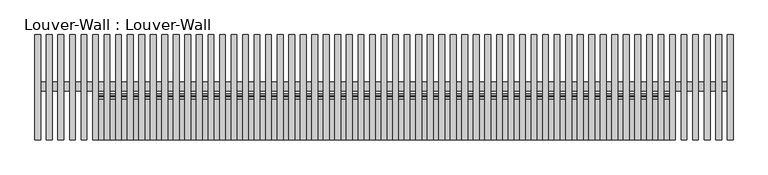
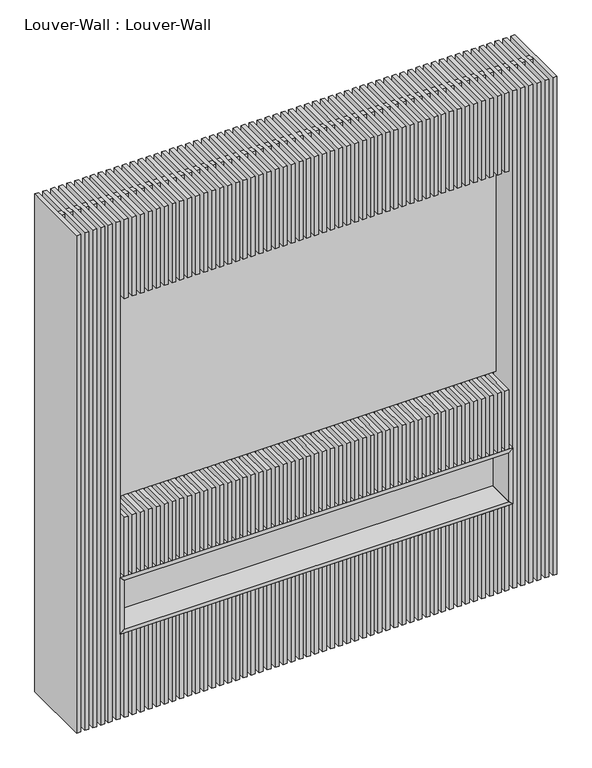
"""IFC4 building model written with IfcOpenShell, lengths in millimetres: furniture geometry, Louver-Wall : Louver-Wall."""

import ifcopenshell
import ifcopenshell.guid

model = None  # the IFC model being written
_history = None  # IfcOwnerHistory: only IFC2X3 demands one
_inside = {}  # id of a spatial element -> (the spatial element, [elements in it])
_under = {}  # id of a project, library or spatial element -> (it, [spatial elements below it])
_declared = {}  # id of a project -> (the project, [libraries it declares])
_typed = {}  # id of a type object -> (the type object, [elements of that type])
_made_of = {}  # id of a material, layer set ... -> (it, [elements and type objects made of it])


def new_model(schema):
    """Start an empty IFC model of exactly this schema.

    Asked for "IFC4X3", IfcOpenShell would pick the latest addendum, in which some entities
    have other attributes; the version numbers below select the first issue.
    IFC2X3 requires an IfcOwnerHistory on every rooted entity: one is made here for all.
    """
    global model, _history
    if schema == "IFC4X3":
        model = ifcopenshell.file(schema_version=(4, 3, 0, 0))
    else:
        model = ifcopenshell.file(schema=schema)
    _inside.clear()
    _under.clear()
    _declared.clear()
    _typed.clear()
    _made_of.clear()
    _history = None
    if model.schema == "IFC2X3":
        org = make("IfcOrganization", Name="unknown")
        user = make(
            "IfcPersonAndOrganization",
            ThePerson=make("IfcPerson", FamilyName="unknown"),
            TheOrganization=org,
        )
        app = make(
            "IfcApplication",
            ApplicationDeveloper=org,
            Version="unknown",
            ApplicationFullName="unknown",
            ApplicationIdentifier="unknown",
        )
        _history = make(
            "IfcOwnerHistory",
            OwningUser=user,
            OwningApplication=app,
            ChangeAction="ADDED",
            CreationDate=0,
        )
    return model


def make(cls, **values):
    """One entity of the class cls with the attributes given. An attribute that is None is left unset."""
    return model.create_entity(
        cls, **{name: value for name, value in values.items() if value is not None}
    )


def rooted(cls, **values):
    """An entity with a GlobalId (a new one), such as an element, a storey or a relation."""
    return make(cls, GlobalId=ifcopenshell.guid.new(), OwnerHistory=_history, **values)


def si_unit(unit_type, name, prefix=None):
    """IfcSIUnit, for example si_unit("LENGTHUNIT", "METRE", prefix="MILLI")."""
    return make("IfcSIUnit", UnitType=unit_type, Prefix=prefix, Name=name)


def assignment(units):
    """IfcUnitAssignment: the units of a project."""
    return None if units is None else make("IfcUnitAssignment", Units=units)


def point(xyz):
    """IfcCartesianPoint."""
    return None if xyz is None else make("IfcCartesianPoint", Coordinates=xyz)


def direction(xyz):
    """IfcDirection."""
    return None if xyz is None else make("IfcDirection", DirectionRatios=xyz)


def frame(location, z_axis=None, x_axis=None):
    """IfcAxis2Placement3D, a coordinate frame: its origin and axes. An axis left out is left unset."""
    return make(
        "IfcAxis2Placement3D",
        Location=point(location),
        Axis=direction(z_axis),
        RefDirection=direction(x_axis),
    )


def origin():
    """The frame at (0, 0, 0) with its axes left unset."""
    return frame((0.0, 0.0, 0.0))


def origin_with_axes():
    """The frame at (0, 0, 0) with the z axis (0, 0, 1) and the x axis (1, 0, 0) written out."""
    return frame((0.0, 0.0, 0.0), z_axis=(0.0, 0.0, 1.0), x_axis=(1.0, 0.0, 0.0))


def place(relative_to, where):
    """IfcLocalPlacement: puts the frame where relative to a parent placement (None: the world)."""
    return make(
        "IfcLocalPlacement", PlacementRelTo=relative_to, RelativePlacement=where
    )


def context(
    kind, dimensions, precision=None, world=None, true_north=None, identifier=None
):
    """IfcGeometricRepresentationContext, for example the 3D "Model" context."""
    return make(
        "IfcGeometricRepresentationContext",
        ContextIdentifier=identifier,
        ContextType=kind,
        CoordinateSpaceDimension=dimensions,
        Precision=precision,
        WorldCoordinateSystem=world,
        TrueNorth=true_north,
    )


def project(units=None, contexts=None):
    """IfcProject with its units and contexts."""
    return rooted(
        "IfcProject",
        Name="project",
        RepresentationContexts=contexts,
        UnitsInContext=assignment(units),
    )


def spatial(cls, under=None, at=None, **own):
    """A site, building, storey or space (cls), placed at a placement, below another one or the project."""
    s = rooted(cls, ObjectPlacement=at, **own)
    if under is not None:
        _under.setdefault(under.id(), (under, []))[1].append(s)
    return s


def polyline(points):
    """IfcPolyline through the points."""
    return make("IfcPolyline", Points=[point(p) for p in points])


def outline(outer, holes=None, kind="AREA"):
    """IfcArbitraryClosedProfileDef: a profile drawn as a closed curve; with holes, ...WithVoids."""
    if holes is None:
        return make("IfcArbitraryClosedProfileDef", ProfileType=kind, OuterCurve=outer)
    return make(
        "IfcArbitraryProfileDefWithVoids",
        ProfileType=kind,
        OuterCurve=outer,
        InnerCurves=holes,
    )


def extrude(swept, where, along, depth):
    """IfcExtrudedAreaSolid: the profile swept, set in the frame where, extruded along a direction by depth."""
    return make(
        "IfcExtrudedAreaSolid",
        SweptArea=swept,
        Position=where,
        ExtrudedDirection=direction(along),
        Depth=depth,
    )


def shape(context_of_items, identifier, shape_type, items):
    """IfcShapeRepresentation: the items that make up one representation, for example the "Body"."""
    return make(
        "IfcShapeRepresentation",
        ContextOfItems=context_of_items,
        RepresentationIdentifier=identifier,
        RepresentationType=shape_type,
        Items=items,
    )


def source(mapping_origin, context_of_items, identifier, shape_type, items):
    """IfcRepresentationMap: a shape defined once, which mapped items show again and again."""
    return make(
        "IfcRepresentationMap",
        MappingOrigin=mapping_origin,
        MappedRepresentation=shape(context_of_items, identifier, shape_type, items),
    )


def transform(
    local_origin,
    x_axis=None,
    y_axis=None,
    z_axis=None,
    scale=None,
    scale2=None,
    scale3=None,
    uniform=True,
):
    """IfcCartesianTransformationOperator3D, or its non-uniform kind. x_axis, y_axis, z_axis: its Axis1, 2, 3."""
    if uniform:
        return make(
            "IfcCartesianTransformationOperator3D",
            Axis1=direction(x_axis),
            Axis2=direction(y_axis),
            LocalOrigin=point(local_origin),
            Scale=scale,
            Axis3=direction(z_axis),
        )
    return make(
        "IfcCartesianTransformationOperator3DnonUniform",
        Axis1=direction(x_axis),
        Axis2=direction(y_axis),
        LocalOrigin=point(local_origin),
        Scale=scale,
        Axis3=direction(z_axis),
        Scale2=scale2,
        Scale3=scale3,
    )


def mapped(mapping_source, mapping_target):
    """IfcMappedItem: shows the shape of a source again, moved by a transform."""
    return make(
        "IfcMappedItem", MappingSource=mapping_source, MappingTarget=mapping_target
    )


def made_of(thing, what):
    """Note that an element or type object is made of a material, layer set ...; save() writes the relation."""
    if what is not None:
        _made_of.setdefault(what.id(), (what, []))[1].append(thing)
    return thing


def element(
    cls,
    number,
    at=None,
    inside=None,
    cuts=None,
    type_object=None,
    material=None,
    context=None,
    identifier="Body",
    shape_type=None,
    held_by="IfcProductDefinitionShape",
    body=None,
    shapes=None,
    **own,
):
    """One element of the class cls, such as IfcWall. Its Tag is "e" and its number.

    at: its placement. inside: the storey or other place that contains it. cuts: it is an
    opening in that element (IfcRelVoidsElement). A single representation is given by context,
    identifier, shape_type and body (its items); several are given by shapes. held_by: the class
    of the entity that holds the representations. save() writes the other relations.
    """
    e = rooted(cls, Tag="e%d" % number, ObjectPlacement=at, **own)
    if body is not None:
        shapes = [shape(context, identifier, shape_type, body)]
    if shapes is not None:
        e.Representation = make(held_by, Representations=shapes)
    if inside is not None:
        _inside.setdefault(inside.id(), (inside, []))[1].append(e)
    if cuts is not None:
        rooted(
            "IfcRelVoidsElement", RelatingBuildingElement=cuts, RelatedOpeningElement=e
        )
    if type_object is not None:
        _typed.setdefault(type_object.id(), (type_object, []))[1].append(e)
    return made_of(e, material)


def aggregate(whole, parts):
    """IfcRelAggregates: a whole, such as a stair, and the parts it consists of."""
    return rooted("IfcRelAggregates", RelatingObject=whole, RelatedObjects=parts)


def save(model, path):
    """Write the relations noted so far, then the file.

    IfcRelAggregates (storeys below a building ...), IfcRelContainedInSpatialStructure (elements
    in a storey), IfcRelDefinesByType, IfcRelAssociatesMaterial and IfcRelDeclares: one each for
    every whole, place, type object, material and project.
    """
    for whole, parts in _under.values():
        aggregate(whole, parts)
    for where, things in _inside.values():
        rooted(
            "IfcRelContainedInSpatialStructure",
            RelatedElements=things,
            RelatingStructure=where,
        )
    for kind, things in _typed.values():
        rooted("IfcRelDefinesByType", RelatedObjects=things, RelatingType=kind)
    for what, things in _made_of.values():
        rooted("IfcRelAssociatesMaterial", RelatedObjects=things, RelatingMaterial=what)
    for by, libraries in _declared.values():
        rooted("IfcRelDeclares", RelatingContext=by, RelatedDefinitions=libraries)
    model.write(path)


def louver_wall_louver_wall_93ea62c7(model_context):
    return source(origin(), model_context, "Body", "SweptSolid", [
        extrude(outline(polyline([(450.0, -990.0), (450.0, 990.0), (470.0, 970.0), (470.0, -970.0), (450.0, -990.0)])), frame((0.0, 0.0, 0.0), z_axis=(0.0, 1.0, 0.0), x_axis=(0.0, 0.0, 1.0)), (0.0, 0.0, 1.0), 140.0),
        extrude(outline(polyline([(750.0, -990.0), (450.0, -990.0), (470.0, -970.0), (730.0, -970.0), (750.0, -990.0)])), frame((0.0, 0.0, 0.0), z_axis=(0.0, 1.0, 0.0), x_axis=(0.0, 0.0, 1.0)), (0.0, 0.0, 1.0), 140.0),
        extrude(outline(polyline([(750.0, 990.0), (750.0, -990.0), (730.0, -970.0), (730.0, 970.0), (750.0, 990.0)])), frame((0.0, 0.0, 0.0), z_axis=(0.0, 1.0, 0.0), x_axis=(0.0, 0.0, 1.0)), (0.0, 0.0, 1.0), 140.0),
        extrude(outline(polyline([(990.0, 140.0), (-990.0, 140.0), (-990.0, 160.0), (990.0, 160.0), (990.0, 140.0)])), frame((0.0, 0.0, 450.0), z_axis=(0.0, 0.0, 1.0), x_axis=(1.0, 0.0, 0.0)), (0.0, 0.0, 1.0), 300.0),
        extrude(outline(polyline([(450.0, 990.0), (750.0, 990.0), (730.0, 970.0), (470.0, 970.0), (450.0, 990.0)])), frame((0.0, 0.0, 0.0), z_axis=(0.0, 1.0, 0.0), x_axis=(0.0, 0.0, 1.0)), (0.0, 0.0, 1.0), 140.0),
        extrude(outline(polyline([(1190.0, 201.0639808), (1190.0, 170.2334839), (-1190.0, 170.2334839), (-1190.0, 201.0639808), (1190.0, 201.0639808)])), origin_with_axes(), (0.0, 0.0, 1.0), 2649.0),
        extrude(outline(polyline([(990.0, 152.0), (990.0, 150.0), (-990.0, 150.0), (-990.0, 152.0), (990.0, 152.0)])), frame((0.0, 0.0, 1065.0), z_axis=(0.0, 0.0, 1.0), x_axis=(1.0, 0.0, 0.0)), (0.0, 0.0, 1.0), 1165.0),
        extrude(outline(polyline([(1010.0, 365.0), (1010.0, 0.0), (990.0, 0.0), (990.0, 365.0), (1010.0, 365.0)])), origin_with_axes(), (0.0, 0.0, 1.0), 2650.0),
        extrude(outline(polyline([(-990.0, 365.0), (-990.0, 0.0), (-1010.0, 0.0), (-1010.0, 365.0), (-990.0, 365.0)])), origin_with_axes(), (0.0, 0.0, 1.0), 2650.0),
        extrude(outline(polyline([(0.0, 2650.0), (365.0, 2650.0), (365.0, 0.0), (0.0, 0.0), (0.0, 450.0), (185.0, 450.0), (185.0, 750.0), (0.0, 750.0), (0.0, 1065.0), (152.0, 1065.0), (152.0, 2230.0), (0.0, 2230.0), (0.0, 2650.0)])), frame((950.0, 0.0, 0.0), z_axis=(1.0, 0.0, 0.0), x_axis=(0.0, 1.0, 0.0)), (0.0, 0.0, 1.0), 20.0),
        extrude(outline(polyline([(0.0, 2650.0), (365.0, 2650.0), (365.0, 0.0), (0.0, 0.0), (0.0, 450.0), (185.0, 450.0), (185.0, 750.0), (0.0, 750.0), (0.0, 1065.0), (152.0, 1065.0), (152.0, 2230.0), (0.0, 2230.0), (0.0, 2650.0)])), frame((910.0, 0.0, 0.0), z_axis=(1.0, 0.0, 0.0), x_axis=(0.0, 1.0, 0.0)), (0.0, 0.0, 1.0), 20.0),
        extrude(outline(polyline([(0.0, 2650.0), (365.0, 2650.0), (365.0, 0.0), (0.0, 0.0), (0.0, 450.0), (185.0, 450.0), (185.0, 750.0), (0.0, 750.0), (0.0, 1065.0), (152.0, 1065.0), (152.0, 2230.0), (0.0, 2230.0), (0.0, 2650.0)])), frame((870.0, 0.0, 0.0), z_axis=(1.0, 0.0, 0.0), x_axis=(0.0, 1.0, 0.0)), (0.0, 0.0, 1.0), 20.0),
        extrude(outline(polyline([(0.0, 2650.0), (365.0, 2650.0), (365.0, 0.0), (0.0, 0.0), (0.0, 450.0), (185.0, 450.0), (185.0, 750.0), (0.0, 750.0), (0.0, 1065.0), (152.0, 1065.0), (152.0, 2230.0), (0.0, 2230.0), (0.0, 2650.0)])), frame((830.0, 0.0, 0.0), z_axis=(1.0, 0.0, 0.0), x_axis=(0.0, 1.0, 0.0)), (0.0, 0.0, 1.0), 20.0),
        extrude(outline(polyline([(0.0, 2650.0), (365.0, 2650.0), (365.0, 0.0), (0.0, 0.0), (0.0, 450.0), (185.0, 450.0), (185.0, 750.0), (0.0, 750.0), (0.0, 1065.0), (152.0, 1065.0), (152.0, 2230.0), (0.0, 2230.0), (0.0, 2650.0)])), frame((790.0, 0.0, 0.0), z_axis=(1.0, 0.0, 0.0), x_axis=(0.0, 1.0, 0.0)), (0.0, 0.0, 1.0), 20.0),
        extrude(outline(polyline([(0.0, 2650.0), (365.0, 2650.0), (365.0, 0.0), (0.0, 0.0), (0.0, 450.0), (185.0, 450.0), (185.0, 750.0), (0.0, 750.0), (0.0, 1065.0), (152.0, 1065.0), (152.0, 2230.0), (0.0, 2230.0), (0.0, 2650.0)])), frame((750.0, 0.0, 0.0), z_axis=(1.0, 0.0, 0.0), x_axis=(0.0, 1.0, 0.0)), (0.0, 0.0, 1.0), 20.0),
        extrude(outline(polyline([(0.0, 2650.0), (365.0, 2650.0), (365.0, 0.0), (0.0, 0.0), (0.0, 450.0), (185.0, 450.0), (185.0, 750.0), (0.0, 750.0), (0.0, 1065.0), (152.0, 1065.0), (152.0, 2230.0), (0.0, 2230.0), (0.0, 2650.0)])), frame((710.0, 0.0, 0.0), z_axis=(1.0, 0.0, 0.0), x_axis=(0.0, 1.0, 0.0)), (0.0, 0.0, 1.0), 20.0),
        extrude(outline(polyline([(0.0, 2650.0), (365.0, 2650.0), (365.0, 0.0), (0.0, 0.0), (0.0, 450.0), (185.0, 450.0), (185.0, 750.0), (0.0, 750.0), (0.0, 1065.0), (152.0, 1065.0), (152.0, 2230.0), (0.0, 2230.0), (0.0, 2650.0)])), frame((670.0, 0.0, 0.0), z_axis=(1.0, 0.0, 0.0), x_axis=(0.0, 1.0, 0.0)), (0.0, 0.0, 1.0), 20.0),
        extrude(outline(polyline([(0.0, 2650.0), (365.0, 2650.0), (365.0, 0.0), (0.0, 0.0), (0.0, 450.0), (185.0, 450.0), (185.0, 750.0), (0.0, 750.0), (0.0, 1065.0), (152.0, 1065.0), (152.0, 2230.0), (0.0, 2230.0), (0.0, 2650.0)])), frame((630.0, 0.0, 0.0), z_axis=(1.0, 0.0, 0.0), x_axis=(0.0, 1.0, 0.0)), (0.0, 0.0, 1.0), 20.0),
        extrude(outline(polyline([(0.0, 2650.0), (365.0, 2650.0), (365.0, 0.0), (0.0, 0.0), (0.0, 450.0), (185.0, 450.0), (185.0, 750.0), (0.0, 750.0), (0.0, 1065.0), (152.0, 1065.0), (152.0, 2230.0), (0.0, 2230.0), (0.0, 2650.0)])), frame((590.0, 0.0, 0.0), z_axis=(1.0, 0.0, 0.0), x_axis=(0.0, 1.0, 0.0)), (0.0, 0.0, 1.0), 20.0),
        extrude(outline(polyline([(0.0, 2650.0), (365.0, 2650.0), (365.0, 0.0), (0.0, 0.0), (0.0, 450.0), (185.0, 450.0), (185.0, 750.0), (0.0, 750.0), (0.0, 1065.0), (152.0, 1065.0), (152.0, 2230.0), (0.0, 2230.0), (0.0, 2650.0)])), frame((550.0, 0.0, 0.0), z_axis=(1.0, 0.0, 0.0), x_axis=(0.0, 1.0, 0.0)), (0.0, 0.0, 1.0), 20.0),
        extrude(outline(polyline([(0.0, 2650.0), (365.0, 2650.0), (365.0, 0.0), (0.0, 0.0), (0.0, 450.0), (185.0, 450.0), (185.0, 750.0), (0.0, 750.0), (0.0, 1065.0), (152.0, 1065.0), (152.0, 2230.0), (0.0, 2230.0), (0.0, 2650.0)])), frame((510.0, 0.0, 0.0), z_axis=(1.0, 0.0, 0.0), x_axis=(0.0, 1.0, 0.0)), (0.0, 0.0, 1.0), 20.0),
        extrude(outline(polyline([(0.0, 2650.0), (365.0, 2650.0), (365.0, 0.0), (0.0, 0.0), (0.0, 450.0), (185.0, 450.0), (185.0, 750.0), (0.0, 750.0), (0.0, 1065.0), (152.0, 1065.0), (152.0, 2230.0), (0.0, 2230.0), (0.0, 2650.0)])), frame((470.0, 0.0, 0.0), z_axis=(1.0, 0.0, 0.0), x_axis=(0.0, 1.0, 0.0)), (0.0, 0.0, 1.0), 20.0),
        extrude(outline(polyline([(0.0, 2650.0), (365.0, 2650.0), (365.0, 0.0), (0.0, 0.0), (0.0, 450.0), (185.0, 450.0), (185.0, 750.0), (0.0, 750.0), (0.0, 1065.0), (152.0, 1065.0), (152.0, 2230.0), (0.0, 2230.0), (0.0, 2650.0)])), frame((430.0, 0.0, 0.0), z_axis=(1.0, 0.0, 0.0), x_axis=(0.0, 1.0, 0.0)), (0.0, 0.0, 1.0), 20.0),
        extrude(outline(polyline([(0.0, 2650.0), (365.0, 2650.0), (365.0, 0.0), (0.0, 0.0), (0.0, 450.0), (185.0, 450.0), (185.0, 750.0), (0.0, 750.0), (0.0, 1065.0), (152.0, 1065.0), (152.0, 2230.0), (0.0, 2230.0), (0.0, 2650.0)])), frame((390.0, 0.0, 0.0), z_axis=(1.0, 0.0, 0.0), x_axis=(0.0, 1.0, 0.0)), (0.0, 0.0, 1.0), 20.0),
        extrude(outline(polyline([(0.0, 2650.0), (365.0, 2650.0), (365.0, 0.0), (0.0, 0.0), (0.0, 450.0), (185.0, 450.0), (185.0, 750.0), (0.0, 750.0), (0.0, 1065.0), (152.0, 1065.0), (152.0, 2230.0), (0.0, 2230.0), (0.0, 2650.0)])), frame((350.0, 0.0, 0.0), z_axis=(1.0, 0.0, 0.0), x_axis=(0.0, 1.0, 0.0)), (0.0, 0.0, 1.0), 20.0),
        extrude(outline(polyline([(0.0, 2650.0), (365.0, 2650.0), (365.0, 0.0), (0.0, 0.0), (0.0, 450.0), (185.0, 450.0), (185.0, 750.0), (0.0, 750.0), (0.0, 1065.0), (152.0, 1065.0), (152.0, 2230.0), (0.0, 2230.0), (0.0, 2650.0)])), frame((310.0, 0.0, 0.0), z_axis=(1.0, 0.0, 0.0), x_axis=(0.0, 1.0, 0.0)), (0.0, 0.0, 1.0), 20.0),
        extrude(outline(polyline([(0.0, 2650.0), (365.0, 2650.0), (365.0, 0.0), (0.0, 0.0), (0.0, 450.0), (185.0, 450.0), (185.0, 750.0), (0.0, 750.0), (0.0, 1065.0), (152.0, 1065.0), (152.0, 2230.0), (0.0, 2230.0), (0.0, 2650.0)])), frame((270.0, 0.0, 0.0), z_axis=(1.0, 0.0, 0.0), x_axis=(0.0, 1.0, 0.0)), (0.0, 0.0, 1.0), 20.0),
        extrude(outline(polyline([(0.0, 2650.0), (365.0, 2650.0), (365.0, 0.0), (0.0, 0.0), (0.0, 450.0), (185.0, 450.0), (185.0, 750.0), (0.0, 750.0), (0.0, 1065.0), (152.0, 1065.0), (152.0, 2230.0), (0.0, 2230.0), (0.0, 2650.0)])), frame((230.0, 0.0, 0.0), z_axis=(1.0, 0.0, 0.0), x_axis=(0.0, 1.0, 0.0)), (0.0, 0.0, 1.0), 20.0),
        extrude(outline(polyline([(0.0, 2650.0), (365.0, 2650.0), (365.0, 0.0), (0.0, 0.0), (0.0, 450.0), (185.0, 450.0), (185.0, 750.0), (0.0, 750.0), (0.0, 1065.0), (152.0, 1065.0), (152.0, 2230.0), (0.0, 2230.0), (0.0, 2650.0)])), frame((190.0, 0.0, 0.0), z_axis=(1.0, 0.0, 0.0), x_axis=(0.0, 1.0, 0.0)), (0.0, 0.0, 1.0), 20.0),
        extrude(outline(polyline([(0.0, 2650.0), (365.0, 2650.0), (365.0, 0.0), (0.0, 0.0), (0.0, 450.0), (185.0, 450.0), (185.0, 750.0), (0.0, 750.0), (0.0, 1065.0), (152.0, 1065.0), (152.0, 2230.0), (0.0, 2230.0), (0.0, 2650.0)])), frame((150.0, 0.0, 0.0), z_axis=(1.0, 0.0, 0.0), x_axis=(0.0, 1.0, 0.0)), (0.0, 0.0, 1.0), 20.0),
        extrude(outline(polyline([(0.0, 2650.0), (365.0, 2650.0), (365.0, 0.0), (0.0, 0.0), (0.0, 450.0), (185.0, 450.0), (185.0, 750.0), (0.0, 750.0), (0.0, 1065.0), (152.0, 1065.0), (152.0, 2230.0), (0.0, 2230.0), (0.0, 2650.0)])), frame((110.0, 0.0, 0.0), z_axis=(1.0, 0.0, 0.0), x_axis=(0.0, 1.0, 0.0)), (0.0, 0.0, 1.0), 20.0),
        extrude(outline(polyline([(0.0, 2650.0), (365.0, 2650.0), (365.0, 0.0), (0.0, 0.0), (0.0, 450.0), (185.0, 450.0), (185.0, 750.0), (0.0, 750.0), (0.0, 1065.0), (152.0, 1065.0), (152.0, 2230.0), (0.0, 2230.0), (0.0, 2650.0)])), frame((70.0, 0.0, 0.0), z_axis=(1.0, 0.0, 0.0), x_axis=(0.0, 1.0, 0.0)), (0.0, 0.0, 1.0), 20.0),
        extrude(outline(polyline([(0.0, 2650.0), (365.0, 2650.0), (365.0, 0.0), (0.0, 0.0), (0.0, 450.0), (185.0, 450.0), (185.0, 750.0), (0.0, 750.0), (0.0, 1065.0), (152.0, 1065.0), (152.0, 2230.0), (0.0, 2230.0), (0.0, 2650.0)])), frame((30.0, 0.0, 0.0), z_axis=(1.0, 0.0, 0.0), x_axis=(0.0, 1.0, 0.0)), (0.0, 0.0, 1.0), 20.0),
        extrude(outline(polyline([(0.0, 2650.0), (365.0, 2650.0), (365.0, 0.0), (0.0, 0.0), (0.0, 450.0), (185.0, 450.0), (185.0, 750.0), (0.0, 750.0), (0.0, 1065.0), (152.0, 1065.0), (152.0, 2230.0), (0.0, 2230.0), (0.0, 2650.0)])), frame((-10.0, 0.0, 0.0), z_axis=(1.0, 0.0, 0.0), x_axis=(0.0, 1.0, 0.0)), (0.0, 0.0, 1.0), 20.0),
        extrude(outline(polyline([(0.0, 2650.0), (365.0, 2650.0), (365.0, 0.0), (0.0, 0.0), (0.0, 450.0), (185.0, 450.0), (185.0, 750.0), (0.0, 750.0), (0.0, 1065.0), (152.0, 1065.0), (152.0, 2230.0), (0.0, 2230.0), (0.0, 2650.0)])), frame((-50.0, 0.0, 0.0), z_axis=(1.0, 0.0, 0.0), x_axis=(0.0, 1.0, 0.0)), (0.0, 0.0, 1.0), 20.0),
        extrude(outline(polyline([(0.0, 2650.0), (365.0, 2650.0), (365.0, 0.0), (0.0, 0.0), (0.0, 450.0), (185.0, 450.0), (185.0, 750.0), (0.0, 750.0), (0.0, 1065.0), (152.0, 1065.0), (152.0, 2230.0), (0.0, 2230.0), (0.0, 2650.0)])), frame((-90.0, 0.0, 0.0), z_axis=(1.0, 0.0, 0.0), x_axis=(0.0, 1.0, 0.0)), (0.0, 0.0, 1.0), 20.0),
        extrude(outline(polyline([(0.0, 2650.0), (365.0, 2650.0), (365.0, 0.0), (0.0, 0.0), (0.0, 450.0), (185.0, 450.0), (185.0, 750.0), (0.0, 750.0), (0.0, 1065.0), (152.0, 1065.0), (152.0, 2230.0), (0.0, 2230.0), (0.0, 2650.0)])), frame((-130.0, 0.0, 0.0), z_axis=(1.0, 0.0, 0.0), x_axis=(0.0, 1.0, 0.0)), (0.0, 0.0, 1.0), 20.0),
        extrude(outline(polyline([(0.0, 2650.0), (365.0, 2650.0), (365.0, 0.0), (0.0, 0.0), (0.0, 450.0), (185.0, 450.0), (185.0, 750.0), (0.0, 750.0), (0.0, 1065.0), (152.0, 1065.0), (152.0, 2230.0), (0.0, 2230.0), (0.0, 2650.0)])), frame((-170.0, 0.0, 0.0), z_axis=(1.0, 0.0, 0.0), x_axis=(0.0, 1.0, 0.0)), (0.0, 0.0, 1.0), 20.0),
        extrude(outline(polyline([(0.0, 2650.0), (365.0, 2650.0), (365.0, 0.0), (0.0, 0.0), (0.0, 450.0), (185.0, 450.0), (185.0, 750.0), (0.0, 750.0), (0.0, 1065.0), (152.0, 1065.0), (152.0, 2230.0), (0.0, 2230.0), (0.0, 2650.0)])), frame((-210.0, 0.0, 0.0), z_axis=(1.0, 0.0, 0.0), x_axis=(0.0, 1.0, 0.0)), (0.0, 0.0, 1.0), 20.0),
        extrude(outline(polyline([(0.0, 2650.0), (365.0, 2650.0), (365.0, 0.0), (0.0, 0.0), (0.0, 450.0), (185.0, 450.0), (185.0, 750.0), (0.0, 750.0), (0.0, 1065.0), (152.0, 1065.0), (152.0, 2230.0), (0.0, 2230.0), (0.0, 2650.0)])), frame((-250.0, 0.0, 0.0), z_axis=(1.0, 0.0, 0.0), x_axis=(0.0, 1.0, 0.0)), (0.0, 0.0, 1.0), 20.0),
        extrude(outline(polyline([(0.0, 2650.0), (365.0, 2650.0), (365.0, 0.0), (0.0, 0.0), (0.0, 450.0), (185.0, 450.0), (185.0, 750.0), (0.0, 750.0), (0.0, 1065.0), (152.0, 1065.0), (152.0, 2230.0), (0.0, 2230.0), (0.0, 2650.0)])), frame((-290.0, 0.0, 0.0), z_axis=(1.0, 0.0, 0.0), x_axis=(0.0, 1.0, 0.0)), (0.0, 0.0, 1.0), 20.0),
        extrude(outline(polyline([(0.0, 2650.0), (365.0, 2650.0), (365.0, 0.0), (0.0, 0.0), (0.0, 450.0), (185.0, 450.0), (185.0, 750.0), (0.0, 750.0), (0.0, 1065.0), (152.0, 1065.0), (152.0, 2230.0), (0.0, 2230.0), (0.0, 2650.0)])), frame((-330.0, 0.0, 0.0), z_axis=(1.0, 0.0, 0.0), x_axis=(0.0, 1.0, 0.0)), (0.0, 0.0, 1.0), 20.0),
        extrude(outline(polyline([(0.0, 2650.0), (365.0, 2650.0), (365.0, 0.0), (0.0, 0.0), (0.0, 450.0), (185.0, 450.0), (185.0, 750.0), (0.0, 750.0), (0.0, 1065.0), (152.0, 1065.0), (152.0, 2230.0), (0.0, 2230.0), (0.0, 2650.0)])), frame((-370.0, 0.0, 0.0), z_axis=(1.0, 0.0, 0.0), x_axis=(0.0, 1.0, 0.0)), (0.0, 0.0, 1.0), 20.0),
        extrude(outline(polyline([(0.0, 2650.0), (365.0, 2650.0), (365.0, 0.0), (0.0, 0.0), (0.0, 450.0), (185.0, 450.0), (185.0, 750.0), (0.0, 750.0), (0.0, 1065.0), (152.0, 1065.0), (152.0, 2230.0), (0.0, 2230.0), (0.0, 2650.0)])), frame((-410.0, 0.0, 0.0), z_axis=(1.0, 0.0, 0.0), x_axis=(0.0, 1.0, 0.0)), (0.0, 0.0, 1.0), 20.0),
        extrude(outline(polyline([(0.0, 2650.0), (365.0, 2650.0), (365.0, 0.0), (0.0, 0.0), (0.0, 450.0), (185.0, 450.0), (185.0, 750.0), (0.0, 750.0), (0.0, 1065.0), (152.0, 1065.0), (152.0, 2230.0), (0.0, 2230.0), (0.0, 2650.0)])), frame((-450.0, 0.0, 0.0), z_axis=(1.0, 0.0, 0.0), x_axis=(0.0, 1.0, 0.0)), (0.0, 0.0, 1.0), 20.0),
        extrude(outline(polyline([(0.0, 2650.0), (365.0, 2650.0), (365.0, 0.0), (0.0, 0.0), (0.0, 450.0), (185.0, 450.0), (185.0, 750.0), (0.0, 750.0), (0.0, 1065.0), (152.0, 1065.0), (152.0, 2230.0), (0.0, 2230.0), (0.0, 2650.0)])), frame((-490.0, 0.0, 0.0), z_axis=(1.0, 0.0, 0.0), x_axis=(0.0, 1.0, 0.0)), (0.0, 0.0, 1.0), 20.0),
        extrude(outline(polyline([(0.0, 2650.0), (365.0, 2650.0), (365.0, 0.0), (0.0, 0.0), (0.0, 450.0), (185.0, 450.0), (185.0, 750.0), (0.0, 750.0), (0.0, 1065.0), (152.0, 1065.0), (152.0, 2230.0), (0.0, 2230.0), (0.0, 2650.0)])), frame((-530.0, 0.0, 0.0), z_axis=(1.0, 0.0, 0.0), x_axis=(0.0, 1.0, 0.0)), (0.0, 0.0, 1.0), 20.0),
        extrude(outline(polyline([(0.0, 2650.0), (365.0, 2650.0), (365.0, 0.0), (0.0, 0.0), (0.0, 450.0), (185.0, 450.0), (185.0, 750.0), (0.0, 750.0), (0.0, 1065.0), (152.0, 1065.0), (152.0, 2230.0), (0.0, 2230.0), (0.0, 2650.0)])), frame((-570.0, 0.0, 0.0), z_axis=(1.0, 0.0, 0.0), x_axis=(0.0, 1.0, 0.0)), (0.0, 0.0, 1.0), 20.0),
        extrude(outline(polyline([(0.0, 2650.0), (365.0, 2650.0), (365.0, 0.0), (0.0, 0.0), (0.0, 450.0), (185.0, 450.0), (185.0, 750.0), (0.0, 750.0), (0.0, 1065.0), (152.0, 1065.0), (152.0, 2230.0), (0.0, 2230.0), (0.0, 2650.0)])), frame((-610.0, 0.0, 0.0), z_axis=(1.0, 0.0, 0.0), x_axis=(0.0, 1.0, 0.0)), (0.0, 0.0, 1.0), 20.0),
        extrude(outline(polyline([(0.0, 2650.0), (365.0, 2650.0), (365.0, 0.0), (0.0, 0.0), (0.0, 450.0), (185.0, 450.0), (185.0, 750.0), (0.0, 750.0), (0.0, 1065.0), (152.0, 1065.0), (152.0, 2230.0), (0.0, 2230.0), (0.0, 2650.0)])), frame((-650.0, 0.0, 0.0), z_axis=(1.0, 0.0, 0.0), x_axis=(0.0, 1.0, 0.0)), (0.0, 0.0, 1.0), 20.0),
        extrude(outline(polyline([(0.0, 2650.0), (365.0, 2650.0), (365.0, 0.0), (0.0, 0.0), (0.0, 450.0), (185.0, 450.0), (185.0, 750.0), (0.0, 750.0), (0.0, 1065.0), (152.0, 1065.0), (152.0, 2230.0), (0.0, 2230.0), (0.0, 2650.0)])), frame((-690.0, 0.0, 0.0), z_axis=(1.0, 0.0, 0.0), x_axis=(0.0, 1.0, 0.0)), (0.0, 0.0, 1.0), 20.0),
        extrude(outline(polyline([(0.0, 2650.0), (365.0, 2650.0), (365.0, 0.0), (0.0, 0.0), (0.0, 450.0), (185.0, 450.0), (185.0, 750.0), (0.0, 750.0), (0.0, 1065.0), (152.0, 1065.0), (152.0, 2230.0), (0.0, 2230.0), (0.0, 2650.0)])), frame((-730.0, 0.0, 0.0), z_axis=(1.0, 0.0, 0.0), x_axis=(0.0, 1.0, 0.0)), (0.0, 0.0, 1.0), 20.0),
        extrude(outline(polyline([(0.0, 2650.0), (365.0, 2650.0), (365.0, 0.0), (0.0, 0.0), (0.0, 450.0), (185.0, 450.0), (185.0, 750.0), (0.0, 750.0), (0.0, 1065.0), (152.0, 1065.0), (152.0, 2230.0), (0.0, 2230.0), (0.0, 2650.0)])), frame((-770.0, 0.0, 0.0), z_axis=(1.0, 0.0, 0.0), x_axis=(0.0, 1.0, 0.0)), (0.0, 0.0, 1.0), 20.0),
        extrude(outline(polyline([(0.0, 2650.0), (365.0, 2650.0), (365.0, 0.0), (0.0, 0.0), (0.0, 450.0), (185.0, 450.0), (185.0, 750.0), (0.0, 750.0), (0.0, 1065.0), (152.0, 1065.0), (152.0, 2230.0), (0.0, 2230.0), (0.0, 2650.0)])), frame((-810.0, 0.0, 0.0), z_axis=(1.0, 0.0, 0.0), x_axis=(0.0, 1.0, 0.0)), (0.0, 0.0, 1.0), 20.0),
        extrude(outline(polyline([(0.0, 2650.0), (365.0, 2650.0), (365.0, 0.0), (0.0, 0.0), (0.0, 450.0), (185.0, 450.0), (185.0, 750.0), (0.0, 750.0), (0.0, 1065.0), (152.0, 1065.0), (152.0, 2230.0), (0.0, 2230.0), (0.0, 2650.0)])), frame((-850.0, 0.0, 0.0), z_axis=(1.0, 0.0, 0.0), x_axis=(0.0, 1.0, 0.0)), (0.0, 0.0, 1.0), 20.0),
        extrude(outline(polyline([(0.0, 2650.0), (365.0, 2650.0), (365.0, 0.0), (0.0, 0.0), (0.0, 450.0), (185.0, 450.0), (185.0, 750.0), (0.0, 750.0), (0.0, 1065.0), (152.0, 1065.0), (152.0, 2230.0), (0.0, 2230.0), (0.0, 2650.0)])), frame((-890.0, 0.0, 0.0), z_axis=(1.0, 0.0, 0.0), x_axis=(0.0, 1.0, 0.0)), (0.0, 0.0, 1.0), 20.0),
        extrude(outline(polyline([(0.0, 2650.0), (365.0, 2650.0), (365.0, 0.0), (0.0, 0.0), (0.0, 450.0), (185.0, 450.0), (185.0, 750.0), (0.0, 750.0), (0.0, 1065.0), (152.0, 1065.0), (152.0, 2230.0), (0.0, 2230.0), (0.0, 2650.0)])), frame((-930.0, 0.0, 0.0), z_axis=(1.0, 0.0, 0.0), x_axis=(0.0, 1.0, 0.0)), (0.0, 0.0, 1.0), 20.0),
        extrude(outline(polyline([(0.0, 2650.0), (365.0, 2650.0), (365.0, 0.0), (0.0, 0.0), (0.0, 450.0), (185.0, 450.0), (185.0, 750.0), (0.0, 750.0), (0.0, 1065.0), (152.0, 1065.0), (152.0, 2230.0), (0.0, 2230.0), (0.0, 2650.0)])), frame((-970.0, 0.0, 0.0), z_axis=(1.0, 0.0, 0.0), x_axis=(0.0, 1.0, 0.0)), (0.0, 0.0, 1.0), 20.0),
        extrude(outline(polyline([(1210.0, 365.0), (1210.0, 0.0), (1190.0, 0.0), (1190.0, 365.0), (1210.0, 365.0)])), origin_with_axes(), (0.0, 0.0, 1.0), 2650.0),
        extrude(outline(polyline([(1170.0, 365.0), (1170.0, 0.0), (1150.0, 0.0), (1150.0, 365.0), (1170.0, 365.0)])), origin_with_axes(), (0.0, 0.0, 1.0), 2650.0),
        extrude(outline(polyline([(1130.0, 365.0), (1130.0, 0.0), (1110.0, 0.0), (1110.0, 365.0), (1130.0, 365.0)])), origin_with_axes(), (0.0, 0.0, 1.0), 2650.0),
        extrude(outline(polyline([(1090.0, 365.0), (1090.0, 0.0), (1070.0, 0.0), (1070.0, 365.0), (1090.0, 365.0)])), origin_with_axes(), (0.0, 0.0, 1.0), 2650.0),
        extrude(outline(polyline([(1050.0, 365.0), (1050.0, 0.0), (1030.0, 0.0), (1030.0, 365.0), (1050.0, 365.0)])), origin_with_axes(), (0.0, 0.0, 1.0), 2650.0),
        extrude(outline(polyline([(-1030.0, 365.0), (-1030.0, 0.0), (-1050.0, 0.0), (-1050.0, 365.0), (-1030.0, 365.0)])), origin_with_axes(), (0.0, 0.0, 1.0), 2650.0),
        extrude(outline(polyline([(-1070.0, 365.0), (-1070.0, 0.0), (-1090.0, 0.0), (-1090.0, 365.0), (-1070.0, 365.0)])), origin_with_axes(), (0.0, 0.0, 1.0), 2650.0),
        extrude(outline(polyline([(-1110.0, 365.0), (-1110.0, 0.0), (-1130.0, 0.0), (-1130.0, 365.0), (-1110.0, 365.0)])), origin_with_axes(), (0.0, 0.0, 1.0), 2650.0),
        extrude(outline(polyline([(-1150.0, 365.0), (-1150.0, 0.0), (-1170.0, 0.0), (-1170.0, 365.0), (-1150.0, 365.0)])), origin_with_axes(), (0.0, 0.0, 1.0), 2650.0),
        extrude(outline(polyline([(-1190.0, 365.0), (-1190.0, 0.0), (-1210.0, 0.0), (-1210.0, 365.0), (-1190.0, 365.0)])), origin_with_axes(), (0.0, 0.0, 1.0), 2650.0),
    ])


if __name__ == "__main__":
    model = new_model("IFC4")
    model_context = context("Model", 3, world=origin())
    ifc_project = project(units=[si_unit("LENGTHUNIT", "METRE", prefix="MILLI")], contexts=[model_context])
    site = spatial("IfcSite", under=ifc_project)
    building = spatial("IfcBuilding", under=site)
    placement = place(None, origin())
    louver_wall_louver_wall_shape = louver_wall_louver_wall_93ea62c7(model_context)
    element("IfcFurniture", 1, ObjectType="Louver-Wall : Louver-Wall", at=placement, inside=building, context=model_context, shape_type="MappedRepresentation", body=[
        mapped(louver_wall_louver_wall_shape, transform((0.0, 0.0, 0.0), x_axis=(1.0, 0.0, 0.0), y_axis=(0.0, 1.0, 0.0), z_axis=(0.0, 0.0, 1.0))),
    ])
    save(model, "model.ifc")
